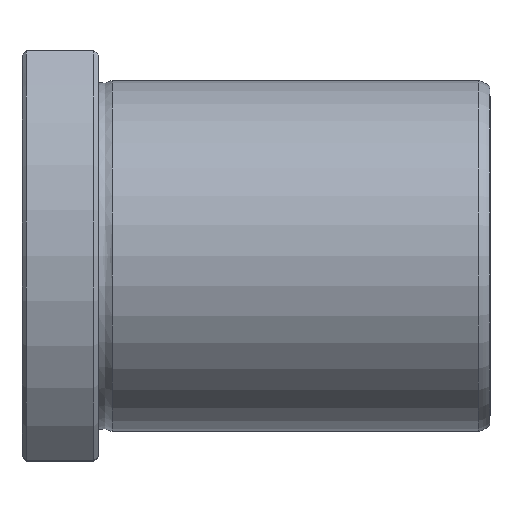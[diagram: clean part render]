
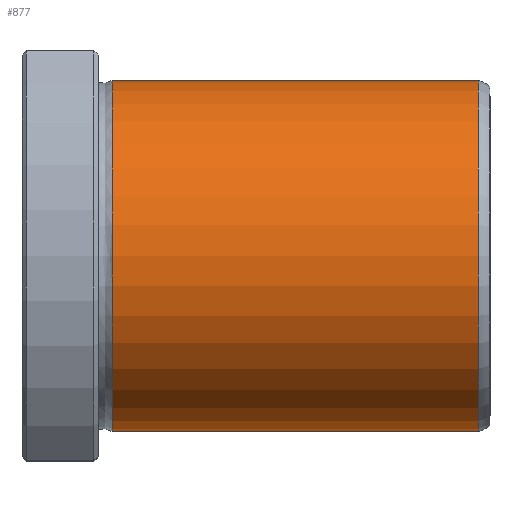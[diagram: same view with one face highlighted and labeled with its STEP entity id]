
A CAD part, top view. The second image highlights one B-rep face of the part: STEP entity #877.
In plain terms, the highlighted cylindrical face has radius 30 mm (diameter 60 mm), a full revolution.
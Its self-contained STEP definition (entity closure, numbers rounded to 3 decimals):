
#843=CARTESIAN_POINT('',(78.016,0.0,30.));
#844=VERTEX_POINT('',#843);
#845=CARTESIAN_POINT('',(78.016,0.0,0.0));
#846=DIRECTION('',(-1.0,0.0,0.0));
#847=DIRECTION('',(0.0,0.0,1.0));
#848=AXIS2_PLACEMENT_3D('',#845,#846,#847);
#849=CIRCLE('',#848,30.);
#850=EDGE_CURVE('',#844,#844,#849,.T.);
#858=CARTESIAN_POINT('',(46.708,0.0,0.0));
#859=DIRECTION('',(-1.0,0.0,0.0));
#860=DIRECTION('',(0.0,0.0,1.0));
#861=AXIS2_PLACEMENT_3D('',#858,#859,#860);
#862=CYLINDRICAL_SURFACE('',#861,30.);
#863=CARTESIAN_POINT('',(15.4,0.0,30.0));
#864=VERTEX_POINT('',#863);
#865=CARTESIAN_POINT('',(15.4,0.0,0.0));
#866=DIRECTION('',(-1.0,0.0,0.0));
#867=DIRECTION('',(0.0,0.0,1.0));
#868=AXIS2_PLACEMENT_3D('',#865,#866,#867);
#869=CIRCLE('',#868,30.0);
#870=EDGE_CURVE('',#864,#864,#869,.T.);
#871=ORIENTED_EDGE('',*,*,#870,.F.);
#872=EDGE_LOOP('',(#871));
#873=FACE_OUTER_BOUND('',#872,.T.);
#874=ORIENTED_EDGE('',*,*,#850,.T.);
#875=EDGE_LOOP('',(#874));
#876=FACE_BOUND('',#875,.T.);
#877=ADVANCED_FACE('',(#873,#876),#862,.T.);
